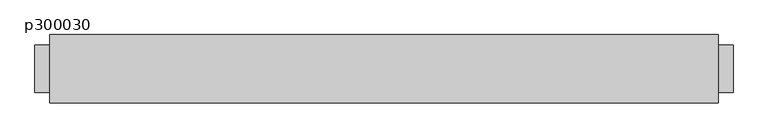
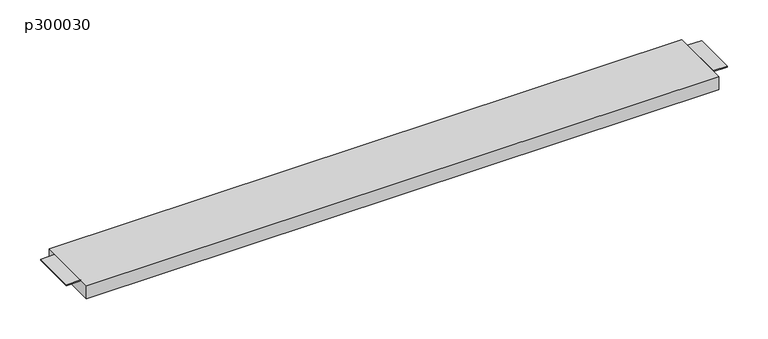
"""IFC4 building model written with IfcOpenShell, lengths in millimetres: proxy geometry, MILLS_ACRAM_PLANCHER_ACIER : p300030."""

from ifc_helpers import new_model, si_unit, frame, origin, place, context, project, spatial, polyline, outline, extrude, source, transform, mapped, element, save


def p300030_d1f45bb2(model_context):
    return source(origin(), model_context, "Body", "SweptSolid", [
        extrude(outline(polyline([(1022.6310524, 1065.022398), (-1911.3689476, 1065.022398), (-1911.3689476, 1365.022398), (1022.6310524, 1365.022398), (1022.6310524, 1065.022398)])), frame((0.0, 0.0, -40.0), z_axis=(0.0, 0.0, 1.0), x_axis=(1.0, 0.0, 0.0)), (0.0, 0.0, 1.0), 65.0),
        extrude(outline(polyline([(-1911.3689476, 1111.522398), (-1977.3689476, 1111.522398), (-1977.3689476, 1318.522398), (-1911.3689476, 1318.522398), (-1911.3689476, 1111.522398)])), frame((0.0, 0.0, 20.0), z_axis=(0.0, 0.0, 1.0), x_axis=(1.0, 0.0, 0.0)), (0.0, 0.0, 1.0), 5.0),
        extrude(outline(polyline([(1088.6310524, 1111.522398), (1022.6310524, 1111.522398), (1022.6310524, 1318.522398), (1088.6310524, 1318.522398), (1088.6310524, 1111.522398)])), frame((0.0, 0.0, 20.0), z_axis=(0.0, 0.0, 1.0), x_axis=(1.0, 0.0, 0.0)), (0.0, 0.0, 1.0), 5.0),
    ])


if __name__ == "__main__":
    model = new_model("IFC4")
    model_context = context("Model", 3, world=origin())
    ifc_project = project(units=[si_unit("LENGTHUNIT", "METRE", prefix="MILLI")], contexts=[model_context])
    site = spatial("IfcSite", under=ifc_project)
    building = spatial("IfcBuilding", under=site)
    placement = place(None, origin())
    p300030_shape = p300030_d1f45bb2(model_context)
    element("IfcBuildingElementProxy", 1, Name="MILLS_ACRAM_PLANCHER_ACIER : p300030", ObjectType="MILLS_ACRAM_PLANCHER_ACIER : p300030", at=placement, inside=building, context=model_context, shape_type="MappedRepresentation", body=[
        mapped(p300030_shape, transform((0.0, 0.0, 0.0), x_axis=(1.0, 0.0, 0.0), y_axis=(0.0, 1.0, 0.0), z_axis=(0.0, 0.0, 1.0))),
    ])
    save(model, "model.ifc")
